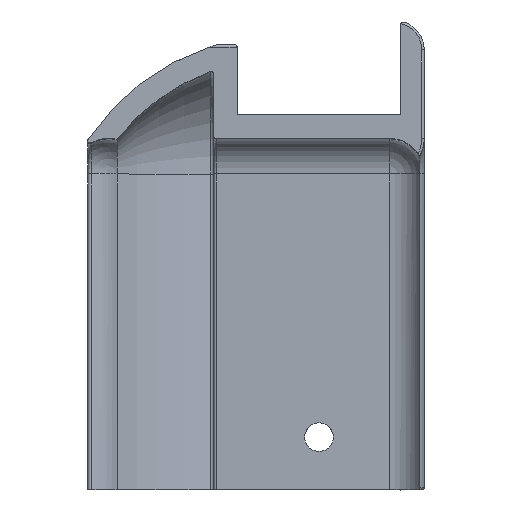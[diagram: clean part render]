
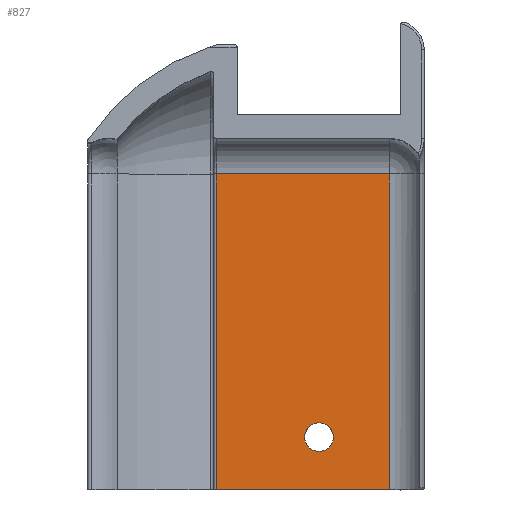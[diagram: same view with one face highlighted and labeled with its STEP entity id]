
A CAD part, top view. The second image highlights one B-rep face of the part: STEP entity #827.
In plain terms, the highlighted planar face has unit normal (0, 0, 1).
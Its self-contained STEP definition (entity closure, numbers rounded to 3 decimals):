
#11 = EDGE_CURVE ( 'NONE', #1782, #1200, #677, .T. ) ;
#46 = CARTESIAN_POINT ( 'NONE',  ( -2.8, -1.5, -30. ) ) ;
#82 = PLANE ( 'NONE',  #1861 ) ;
#100 = CARTESIAN_POINT ( 'NONE',  ( 12., -1.5, -30. ) ) ;
#111 = EDGE_CURVE ( 'NONE', #1167, #1144, #746, .T. ) ;
#267 = EDGE_LOOP ( 'NONE', ( #1433, #1719, #1460, #867 ) ) ;
#308 = CARTESIAN_POINT ( 'NONE',  ( 6., -24., -30. ) ) ;
#324 = EDGE_CURVE ( 'NONE', #1432, #1432, #445, .T. ) ;
#350 = VECTOR ( 'NONE', #1512, 1000. ) ;
#386 = CARTESIAN_POINT ( 'NONE',  ( 12., -1.5, -30. ) ) ;
#422 = CARTESIAN_POINT ( 'NONE',  ( 12., -1.5, -30. ) ) ;
#445 = CIRCLE ( 'NONE', #1497, 1.225 ) ;
#590 = DIRECTION ( 'NONE',  ( 1., 0., 0. ) ) ;
#647 = CARTESIAN_POINT ( 'NONE',  ( -2.8, -28.5, -30. ) ) ;
#662 = FACE_OUTER_BOUND ( 'NONE', #267, .T. ) ;
#670 = DIRECTION ( 'NONE',  ( 0., 1., 0. ) ) ;
#677 = LINE ( 'NONE', #100, #1252 ) ;
#727 = LINE ( 'NONE', #1660, #1711 ) ;
#746 = LINE ( 'NONE', #879, #350 ) ;
#827 = ADVANCED_FACE ( 'NONE', ( #1421, #662 ), #82, .F. ) ;
#867 = ORIENTED_EDGE ( 'NONE', *, *, #11, .F. ) ;
#879 = CARTESIAN_POINT ( 'NONE',  ( -2.8, -28.5, -30. ) ) ;
#924 = DIRECTION ( 'NONE',  ( 0., 0., 1. ) ) ;
#946 = CARTESIAN_POINT ( 'NONE',  ( 12., -28.5, -30. ) ) ;
#953 = ORIENTED_EDGE ( 'NONE', *, *, #324, .F. ) ;
#1144 = VERTEX_POINT ( 'NONE', #647 ) ;
#1167 = VERTEX_POINT ( 'NONE', #46 ) ;
#1200 = VERTEX_POINT ( 'NONE', #946 ) ;
#1252 = VECTOR ( 'NONE', #1604, 1000. ) ;
#1258 = DIRECTION ( 'NONE',  ( 1., 0., 0. ) ) ;
#1285 = DIRECTION ( 'NONE',  ( 0., 0., -1. ) ) ;
#1305 = CARTESIAN_POINT ( 'NONE',  ( 7.225, -24., -30. ) ) ;
#1421 = FACE_BOUND ( 'NONE', #1541, .T. ) ;
#1432 = VERTEX_POINT ( 'NONE', #1305 ) ;
#1433 = ORIENTED_EDGE ( 'NONE', *, *, #1743, .F. ) ;
#1460 = ORIENTED_EDGE ( 'NONE', *, *, #1761, .T. ) ;
#1491 = DIRECTION ( 'NONE',  ( 1., 0., 0. ) ) ;
#1497 = AXIS2_PLACEMENT_3D ( 'NONE', #308, #924, #1258 ) ;
#1512 = DIRECTION ( 'NONE',  ( 0., -1., 0. ) ) ;
#1541 = EDGE_LOOP ( 'NONE', ( #953 ) ) ;
#1604 = DIRECTION ( 'NONE',  ( 0., -1., 0. ) ) ;
#1653 = LINE ( 'NONE', #1822, #1810 ) ;
#1660 = CARTESIAN_POINT ( 'NONE',  ( 12., -1.5, -30. ) ) ;
#1711 = VECTOR ( 'NONE', #1491, 1000. ) ;
#1719 = ORIENTED_EDGE ( 'NONE', *, *, #111, .T. ) ;
#1743 = EDGE_CURVE ( 'NONE', #1167, #1782, #727, .T. ) ;
#1761 = EDGE_CURVE ( 'NONE', #1144, #1200, #1653, .T. ) ;
#1782 = VERTEX_POINT ( 'NONE', #422 ) ;
#1810 = VECTOR ( 'NONE', #590, 1000. ) ;
#1822 = CARTESIAN_POINT ( 'NONE',  ( 12., -28.5, -30. ) ) ;
#1861 = AXIS2_PLACEMENT_3D ( 'NONE', #386, #1285, #670 ) ;
